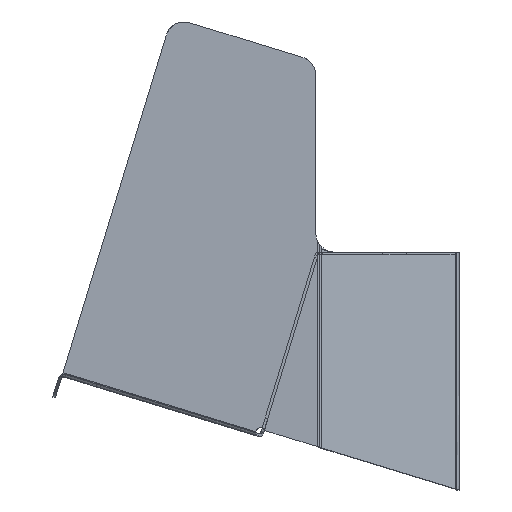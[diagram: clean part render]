
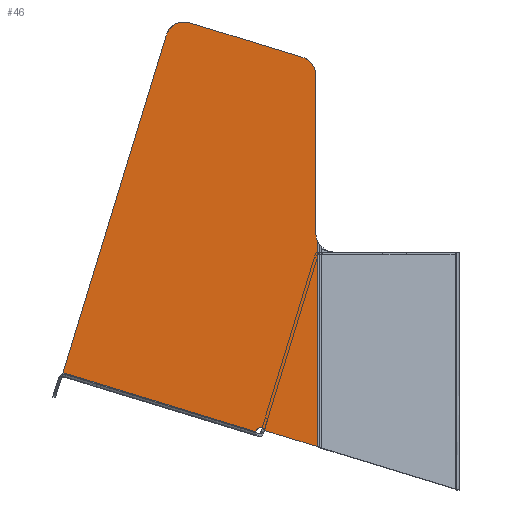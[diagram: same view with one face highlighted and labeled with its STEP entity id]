
A CAD part, left-side view. The second image highlights one B-rep face of the part: STEP entity #46.
In plain terms, the highlighted free-form (B-spline) face has degree [1, 1] with [2, 2] control points.
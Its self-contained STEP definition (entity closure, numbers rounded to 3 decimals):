
#46=ADVANCED_FACE($,(#196),#2093,.T.);
#196=FACE_OUTER_BOUND($,#346,.T.);
#346=EDGE_LOOP($,(#504,#505,#506,#507,#508,#509,#510,#511,#512,#513,#514,
#515,#516));
#504=ORIENTED_EDGE($,*,*,#1296,.T.);
#505=ORIENTED_EDGE($,*,*,#1297,.T.);
#506=ORIENTED_EDGE($,*,*,#1298,.T.);
#507=ORIENTED_EDGE($,*,*,#1299,.T.);
#508=ORIENTED_EDGE($,*,*,#1300,.T.);
#509=ORIENTED_EDGE($,*,*,#1301,.T.);
#510=ORIENTED_EDGE($,*,*,#1302,.T.);
#511=ORIENTED_EDGE($,*,*,#1303,.T.);
#512=ORIENTED_EDGE($,*,*,#1304,.T.);
#513=ORIENTED_EDGE($,*,*,#1305,.T.);
#514=ORIENTED_EDGE($,*,*,#1306,.T.);
#515=ORIENTED_EDGE($,*,*,#1307,.T.);
#516=ORIENTED_EDGE($,*,*,#1308,.T.);
#1296=EDGE_CURVE($,#1739,#1740,#2467,.T.);
#1297=EDGE_CURVE($,#1740,#1741,#2121,.T.);
#1298=EDGE_CURVE($,#1741,#1742,#2122,.T.);
#1299=EDGE_CURVE($,#1742,#1743,#2468,.T.);
#1300=EDGE_CURVE($,#1743,#1744,#2123,.T.);
#1301=EDGE_CURVE($,#1744,#1745,#2469,.T.);
#1302=EDGE_CURVE($,#1745,#1746,#2124,.T.);
#1303=EDGE_CURVE($,#1746,#1747,#2470,.T.);
#1304=EDGE_CURVE($,#1747,#1748,#2125,.T.);
#1305=EDGE_CURVE($,#1748,#1749,#2126,.T.);
#1306=EDGE_CURVE($,#1749,#1750,#2127,.T.);
#1307=EDGE_CURVE($,#1750,#1751,#2128,.T.);
#1308=EDGE_CURVE($,#1751,#1739,#2471,.T.);
#1739=VERTEX_POINT($,#5088);
#1740=VERTEX_POINT($,#5089);
#1741=VERTEX_POINT($,#5090);
#1742=VERTEX_POINT($,#5091);
#1743=VERTEX_POINT($,#5092);
#1744=VERTEX_POINT($,#5093);
#1745=VERTEX_POINT($,#5094);
#1746=VERTEX_POINT($,#5095);
#1747=VERTEX_POINT($,#5096);
#1748=VERTEX_POINT($,#5097);
#1749=VERTEX_POINT($,#5098);
#1750=VERTEX_POINT($,#5099);
#1751=VERTEX_POINT($,#5100);
#2093=B_SPLINE_SURFACE_WITH_KNOTS($,1,1,((#4202,#4203),(#4204,#4205)),.UNSPECIFIED.,
.F.,.F.,.F.,(2,2),(2,2),(75.671,212.446),(27.318,
255.752),.UNSPECIFIED.);
#2121=B_SPLINE_CURVE_WITH_KNOTS($,1,(#3000,#3001),.UNSPECIFIED.,.F.,.F.,
(2,2),(0.,107.31),.UNSPECIFIED.);
#2122=B_SPLINE_CURVE_WITH_KNOTS($,1,(#3002,#3003),.UNSPECIFIED.,.F.,.F.,
(2,2),(0.,188.),.UNSPECIFIED.);
#2123=B_SPLINE_CURVE_WITH_KNOTS($,1,(#3007,#3008),.UNSPECIFIED.,.F.,.F.,
(2,2),(0.,62.902),.UNSPECIFIED.);
#2124=B_SPLINE_CURVE_WITH_KNOTS($,1,(#3012,#3013),.UNSPECIFIED.,.F.,.F.,
(2,2),(0.,84.179),.UNSPECIFIED.);
#2125=B_SPLINE_CURVE_WITH_KNOTS($,1,(#3017,#3018),.UNSPECIFIED.,.F.,.F.,
(2,2),(0.,109.831),.UNSPECIFIED.);
#2126=B_SPLINE_CURVE_WITH_KNOTS($,1,(#3019,#3020),.UNSPECIFIED.,.F.,.F.,
(2,2),(0.,21.528),.UNSPECIFIED.);
#2127=B_SPLINE_CURVE_WITH_KNOTS($,1,(#3021,#3022),.UNSPECIFIED.,.F.,.F.,
(2,2),(0.,2.738),.UNSPECIFIED.);
#2128=B_SPLINE_CURVE_WITH_KNOTS($,1,(#3023,#3024),.UNSPECIFIED.,.F.,.F.,
(2,2),(0.,3.922),.UNSPECIFIED.);
#2467=(
BOUNDED_CURVE()
B_SPLINE_CURVE(2,(#2995,#2996,#2997,#2998,#2999),.UNSPECIFIED.,.F.,.F.)
B_SPLINE_CURVE_WITH_KNOTS((3,2,3),(-6.204,-3.102,0.),
.UNSPECIFIED.)
CURVE()
GEOMETRIC_REPRESENTATION_ITEM()
RATIONAL_B_SPLINE_CURVE((1.,0.84,1.,0.84,1.))
REPRESENTATION_ITEM($)
);
#2468=(
BOUNDED_CURVE()
B_SPLINE_CURVE(2,(#3004,#3005,#3006),.UNSPECIFIED.,.F.,.F.)
B_SPLINE_CURVE_WITH_KNOTS((3,3),(-15.708,0.),.UNSPECIFIED.)
CURVE()
GEOMETRIC_REPRESENTATION_ITEM()
RATIONAL_B_SPLINE_CURVE((1.,0.707,1.))
REPRESENTATION_ITEM($)
);
#2469=(
BOUNDED_CURVE()
B_SPLINE_CURVE(2,(#3009,#3010,#3011),.UNSPECIFIED.,.F.,.F.)
B_SPLINE_CURVE_WITH_KNOTS((3,3),(-12.741,0.),.UNSPECIFIED.)
CURVE()
GEOMETRIC_REPRESENTATION_ITEM()
RATIONAL_B_SPLINE_CURVE((1.,0.804,1.))
REPRESENTATION_ITEM($)
);
#2470=(
BOUNDED_CURVE()
B_SPLINE_CURVE(2,(#3014,#3015,#3016),.UNSPECIFIED.,.F.,.F.)
B_SPLINE_CURVE_WITH_KNOTS((3,3),(-3.868,0.),.UNSPECIFIED.)
CURVE()
GEOMETRIC_REPRESENTATION_ITEM()
RATIONAL_B_SPLINE_CURVE((1.,0.981,1.))
REPRESENTATION_ITEM($)
);
#2471=(
BOUNDED_CURVE()
B_SPLINE_CURVE(2,(#3025,#3026,#3027),.UNSPECIFIED.,.F.,.F.)
B_SPLINE_CURVE_WITH_KNOTS((3,3),(-1.282,0.),.UNSPECIFIED.)
CURVE()
GEOMETRIC_REPRESENTATION_ITEM()
RATIONAL_B_SPLINE_CURVE((1.,0.949,1.))
REPRESENTATION_ITEM($)
);
#2995=CARTESIAN_POINT($,(0.,36.288,-103.654));
#2996=CARTESIAN_POINT($,(0.,37.696,-104.688));
#2997=CARTESIAN_POINT($,(0.,37.33,-106.397));
#2998=CARTESIAN_POINT($,(0.,36.963,-108.106));
#2999=CARTESIAN_POINT($,(0.,35.254,-108.471));
#3000=CARTESIAN_POINT($,(0.,35.254,-108.471));
#3001=CARTESIAN_POINT($,(0.,66.629,-211.091));
#3002=CARTESIAN_POINT($,(0.,66.629,-211.091));
#3003=CARTESIAN_POINT($,(0.,246.414,-156.126));
#3004=CARTESIAN_POINT($,(0.,246.414,-156.126));
#3005=CARTESIAN_POINT($,(0.,255.977,-153.202));
#3006=CARTESIAN_POINT($,(0.,253.053,-143.639));
#3007=CARTESIAN_POINT($,(0.,253.053,-143.639));
#3008=CARTESIAN_POINT($,(0.,234.662,-83.486));
#3009=CARTESIAN_POINT($,(0.,234.662,-83.486));
#3010=CARTESIAN_POINT($,(0.,232.499,-76.409));
#3011=CARTESIAN_POINT($,(0.,225.099,-76.409));
#3012=CARTESIAN_POINT($,(0.,225.099,-76.409));
#3013=CARTESIAN_POINT($,(0.,140.921,-76.409));
#3014=CARTESIAN_POINT($,(0.,140.921,-76.409));
#3015=CARTESIAN_POINT($,(0.,138.962,-76.409));
#3016=CARTESIAN_POINT($,(0.,137.148,-75.671));
#3017=CARTESIAN_POINT($,(0.,137.148,-75.671));
#3018=CARTESIAN_POINT($,(0.,27.318,-75.671));
#3019=CARTESIAN_POINT($,(0.,27.318,-75.671));
#3020=CARTESIAN_POINT($,(0.,33.612,-96.258));
#3021=CARTESIAN_POINT($,(0.,33.612,-96.258));
#3022=CARTESIAN_POINT($,(0.,34.412,-98.876));
#3023=CARTESIAN_POINT($,(0.,34.412,-98.876));
#3024=CARTESIAN_POINT($,(0.,35.559,-102.627));
#3025=CARTESIAN_POINT($,(0.,35.559,-102.627));
#3026=CARTESIAN_POINT($,(0.,35.753,-103.261));
#3027=CARTESIAN_POINT($,(0.,36.288,-103.654));
#4202=CARTESIAN_POINT($,(0.,27.318,-75.671));
#4203=CARTESIAN_POINT($,(0.,255.752,-75.671));
#4204=CARTESIAN_POINT($,(0.,27.318,-212.446));
#4205=CARTESIAN_POINT($,(0.,255.752,-212.446));
#5088=CARTESIAN_POINT($,(0.,36.288,-103.654));
#5089=CARTESIAN_POINT($,(0.,35.254,-108.471));
#5090=CARTESIAN_POINT($,(0.,66.629,-211.091));
#5091=CARTESIAN_POINT($,(0.,246.414,-156.126));
#5092=CARTESIAN_POINT($,(0.,253.053,-143.639));
#5093=CARTESIAN_POINT($,(0.,234.662,-83.486));
#5094=CARTESIAN_POINT($,(0.,225.099,-76.409));
#5095=CARTESIAN_POINT($,(0.,140.921,-76.409));
#5096=CARTESIAN_POINT($,(0.,137.148,-75.671));
#5097=CARTESIAN_POINT($,(0.,27.318,-75.671));
#5098=CARTESIAN_POINT($,(0.,33.612,-96.258));
#5099=CARTESIAN_POINT($,(0.,34.412,-98.876));
#5100=CARTESIAN_POINT($,(0.,35.559,-102.627));
